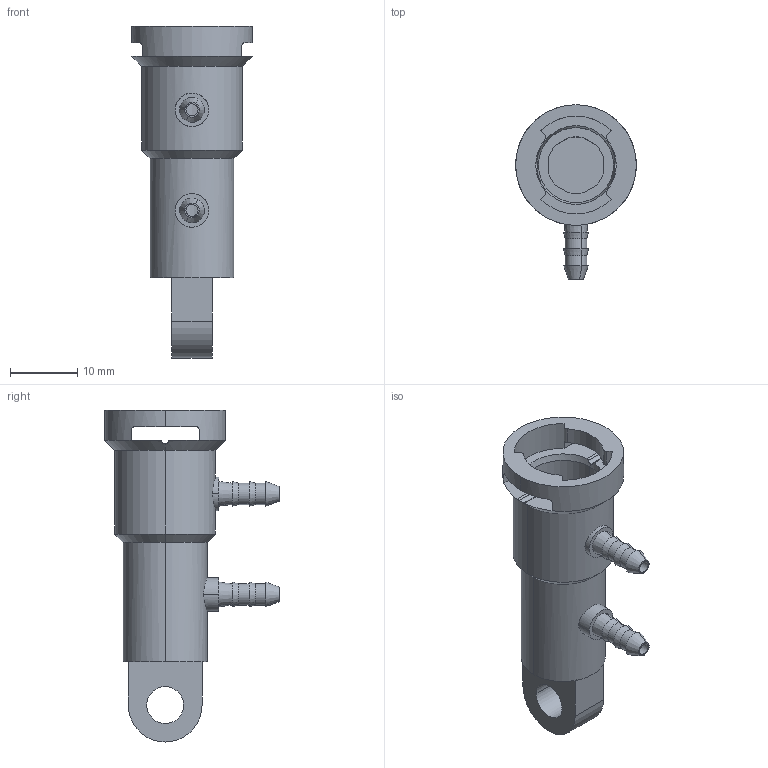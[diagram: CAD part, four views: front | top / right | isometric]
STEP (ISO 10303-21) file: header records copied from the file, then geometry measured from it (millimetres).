
FILE_DESCRIPTION(('CATIA V5 STEP Exchange'),'2;1');
FILE_NAME('G:\够快云库\系统集成开发部\1.部门成员\孙国\3D-stp打印件\1109\001.stp','2020-11-09T06:09:59+00:00',('none'),('none'),'CATIA Version 5 Release 20 GA (IN-10)','CATIA V5 STEP AP203','none');
FILE_SCHEMA(('CONFIG_CONTROL_DESIGN'));
Length unit declared in the file: millimetre
Products named in the file (1): 阀体外壳.3
Bounding box: 18 x 26 x 49.5 mm (x, y, z)
Volume: 3631.9 mm3; surface area: 4085.7 mm2
Topology: 1 solids, 1 shells, 124 faces, 310 edges, 196 vertices
Faces by surface type: cylinder 59, plane 43, cone 22
Entity records: 3745 total; most frequent: CARTESIAN_POINT 1012, ORIENTED_EDGE 620, DIRECTION 420, EDGE_CURVE 310, AXIS2_PLACEMENT_3D 198, VERTEX_POINT 196, VECTOR 150, LINE 150
